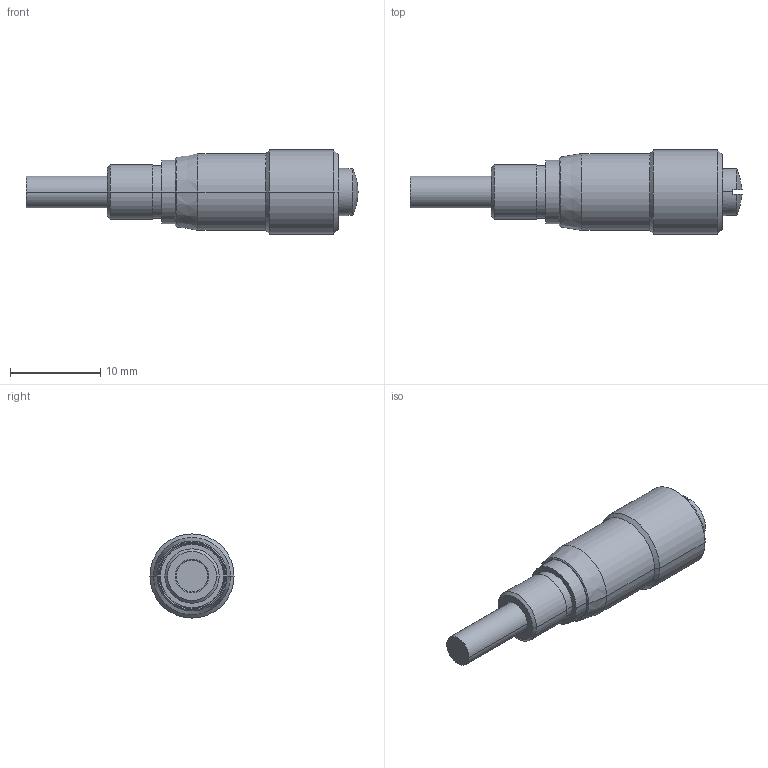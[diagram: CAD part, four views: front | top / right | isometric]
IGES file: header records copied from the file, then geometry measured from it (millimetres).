
Global section: file name: No Iges File Name specified; native system: AutoDesk Inventor R12.0; preprocessor: AutoDesk Inventor Iges Exporter R12.0; author: No Author specified; organization: No Organization specified; date: 20081120.164126; units: millimetre
Bounding box: 36.69 x 9.3 x 9.3 mm (x, y, z)
Volume: 1298.8 mm3; surface area: 2267.4 mm2
Topology: 2 solids, 3 shells, 84 faces, 170 edges, 101 vertices
Faces by surface type: cylinder 22, cone 20, plane 17, revolution 16, bspline 7, sphere 2
